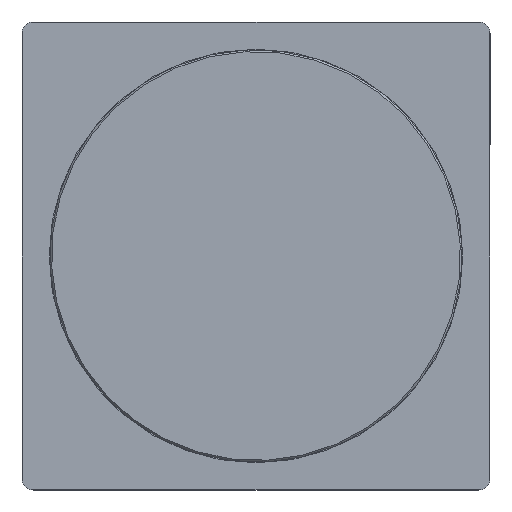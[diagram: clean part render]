
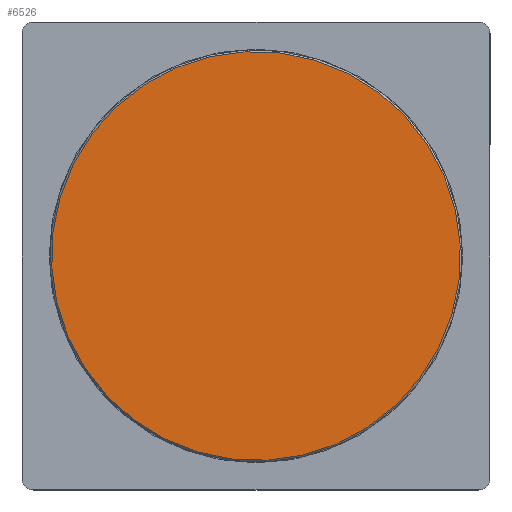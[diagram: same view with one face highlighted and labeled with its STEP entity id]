
A CAD part, front view. The second image highlights one B-rep face of the part: STEP entity #6526.
In plain terms, the highlighted planar face has unit normal (0, -1, 0) as drawn and (0, 0, -1) by its records, which use the part's own axes.
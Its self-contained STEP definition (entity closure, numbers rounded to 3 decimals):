
#627 = ORIENTED_EDGE ( 'NONE', *, *, #2232, .T. ) ;
#1252 = ORIENTED_EDGE ( 'NONE', *, *, #6450, .T. ) ;
#1285 = DIRECTION ( 'NONE',  ( 1., 0., 0. ) ) ;
#1755 = CARTESIAN_POINT ( 'NONE',  ( 34.95, 0., 0. ) ) ;
#1758 = DIRECTION ( 'NONE',  ( 0., 0., 1. ) ) ;
#1926 = DIRECTION ( 'NONE',  ( 0., 0., -1. ) ) ;
#2232 = EDGE_CURVE ( 'NONE', #4787, #3708, #4180, .T. ) ;
#3661 = DIRECTION ( 'NONE',  ( 1., 0., 0. ) ) ;
#3708 = VERTEX_POINT ( 'NONE', #1755 ) ;
#3723 = AXIS2_PLACEMENT_3D ( 'NONE', #5382, #1758, #1285 ) ;
#3828 = PLANE ( 'NONE',  #3723 ) ;
#3860 = AXIS2_PLACEMENT_3D ( 'NONE', #6532, #1926, #3661 ) ;
#4180 = CIRCLE ( 'NONE', #3860, 34.95 ) ;
#4204 = DIRECTION ( 'NONE',  ( 1., 0., 0. ) ) ;
#4262 = FACE_OUTER_BOUND ( 'NONE', #5389, .T. ) ;
#4787 = VERTEX_POINT ( 'NONE', #5693 ) ;
#5113 = AXIS2_PLACEMENT_3D ( 'NONE', #5665, #5633, #4204 ) ;
#5382 = CARTESIAN_POINT ( 'NONE',  ( 0., 0., 0. ) ) ;
#5389 = EDGE_LOOP ( 'NONE', ( #1252, #627 ) ) ;
#5633 = DIRECTION ( 'NONE',  ( 0., 0., -1. ) ) ;
#5665 = CARTESIAN_POINT ( 'NONE',  ( 0., 0., 0. ) ) ;
#5693 = CARTESIAN_POINT ( 'NONE',  ( -34.95, 0., 0. ) ) ;
#6414 = CIRCLE ( 'NONE', #5113, 34.95 ) ;
#6450 = EDGE_CURVE ( 'NONE', #3708, #4787, #6414, .T. ) ;
#6526 = ADVANCED_FACE ( 'NONE', ( #4262 ), #3828, .F. ) ;
#6532 = CARTESIAN_POINT ( 'NONE',  ( 0., 0., 0. ) ) ;
